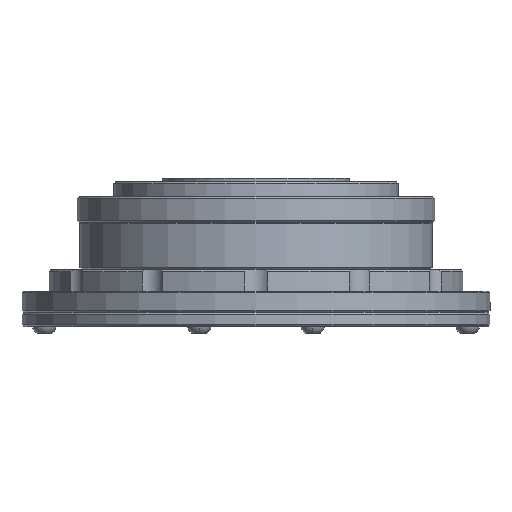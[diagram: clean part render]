
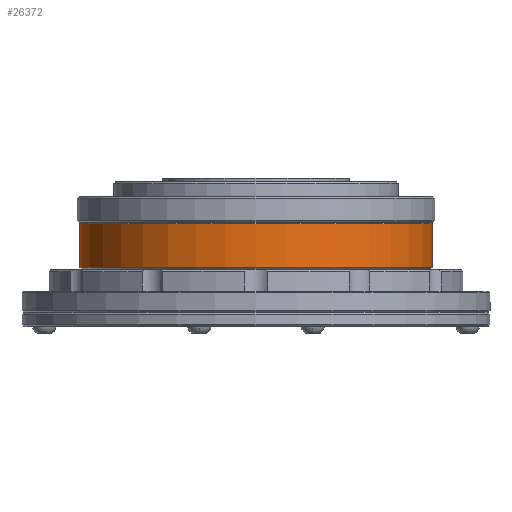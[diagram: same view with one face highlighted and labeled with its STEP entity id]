
A CAD part, front view. The second image highlights one B-rep face of the part: STEP entity #26372.
In plain terms, the highlighted cylindrical face has radius 41.5 mm (diameter 83 mm), a partial arc.
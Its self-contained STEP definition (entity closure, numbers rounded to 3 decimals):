
#1078 = LINE ( 'NONE', #16457, #17732 ) ;
#3598 = DIRECTION ( 'NONE',  ( 0., 0., -1. ) ) ;
#5592 = DIRECTION ( 'NONE',  ( -1., 0., 0. ) ) ;
#5960 = AXIS2_PLACEMENT_3D ( 'NONE', #20434, #35773, #20170 ) ;
#14196 = VERTEX_POINT ( 'NONE', #22942 ) ;
#14500 = CARTESIAN_POINT ( 'NONE',  ( 41.5, 0., 0.6 ) ) ;
#15454 = DIRECTION ( 'NONE',  ( 0., 0., -1. ) ) ;
#16207 = EDGE_LOOP ( 'NONE', ( #19320, #17261, #35501, #23923 ) ) ;
#16457 = CARTESIAN_POINT ( 'NONE',  ( 41.5, 0., -17.472 ) ) ;
#17261 = ORIENTED_EDGE ( 'NONE', *, *, #35119, .T. ) ;
#17732 = VECTOR ( 'NONE', #3598, 1000. ) ;
#18311 = FACE_OUTER_BOUND ( 'NONE', #16207, .T. ) ;
#18326 = CARTESIAN_POINT ( 'NONE',  ( 0., 0., -17.472 ) ) ;
#19320 = ORIENTED_EDGE ( 'NONE', *, *, #40439, .F. ) ;
#20170 = DIRECTION ( 'NONE',  ( -1., 0., 0. ) ) ;
#20434 = CARTESIAN_POINT ( 'NONE',  ( 0., 0., 0.6 ) ) ;
#20970 = CARTESIAN_POINT ( 'NONE',  ( 0., 0., 10.8 ) ) ;
#21110 = DIRECTION ( 'NONE',  ( 0., 0., -1. ) ) ;
#21461 = EDGE_CURVE ( 'NONE', #37276, #14196, #21904, .T. ) ;
#21904 = LINE ( 'NONE', #36479, #39513 ) ;
#22942 = CARTESIAN_POINT ( 'NONE',  ( -41.5, 0., 0.6 ) ) ;
#23465 = DIRECTION ( 'NONE',  ( 0., 0., -1. ) ) ;
#23703 = DIRECTION ( 'NONE',  ( -1., 0., 0. ) ) ;
#23923 = ORIENTED_EDGE ( 'NONE', *, *, #33567, .F. ) ;
#26372 = ADVANCED_FACE ( 'NONE', ( #18311 ), #40279, .T. ) ;
#27436 = CARTESIAN_POINT ( 'NONE',  ( 41.5, 0., 10.8 ) ) ;
#27498 = VERTEX_POINT ( 'NONE', #14500 ) ;
#28631 = VERTEX_POINT ( 'NONE', #27436 ) ;
#30091 = CIRCLE ( 'NONE', #31951, 41.5 ) ;
#31951 = AXIS2_PLACEMENT_3D ( 'NONE', #20970, #21110, #23703 ) ;
#32165 = CIRCLE ( 'NONE', #5960, 41.5 ) ;
#33567 = EDGE_CURVE ( 'NONE', #27498, #14196, #32165, .T. ) ;
#33760 = AXIS2_PLACEMENT_3D ( 'NONE', #18326, #15454, #5592 ) ;
#35119 = EDGE_CURVE ( 'NONE', #28631, #37276, #30091, .T. ) ;
#35501 = ORIENTED_EDGE ( 'NONE', *, *, #21461, .T. ) ;
#35773 = DIRECTION ( 'NONE',  ( 0., 0., -1. ) ) ;
#36479 = CARTESIAN_POINT ( 'NONE',  ( -41.5, 0., -17.472 ) ) ;
#37276 = VERTEX_POINT ( 'NONE', #40485 ) ;
#39513 = VECTOR ( 'NONE', #23465, 1000. ) ;
#40279 = CYLINDRICAL_SURFACE ( 'NONE', #33760, 41.5 ) ;
#40439 = EDGE_CURVE ( 'NONE', #28631, #27498, #1078, .T. ) ;
#40485 = CARTESIAN_POINT ( 'NONE',  ( -41.5, 0., 10.8 ) ) ;
